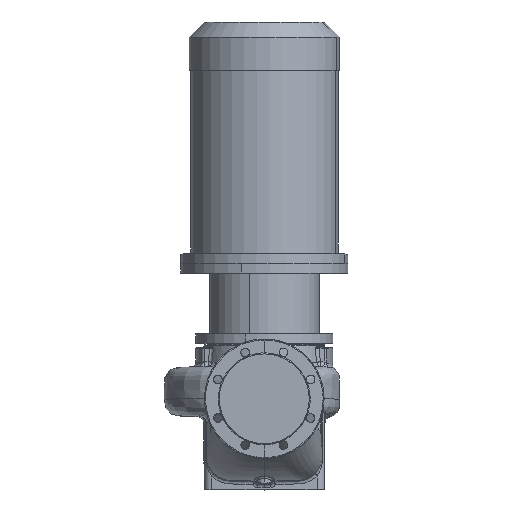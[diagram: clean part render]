
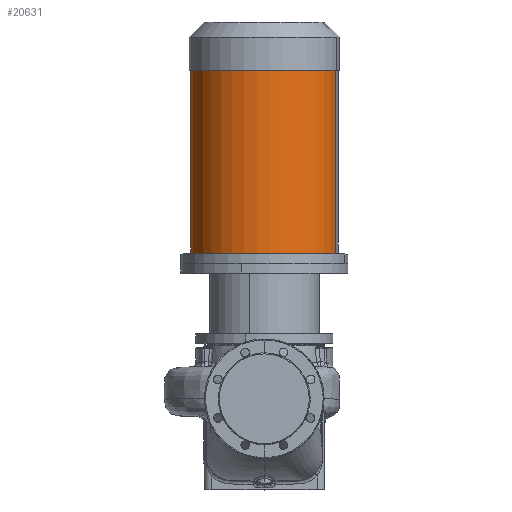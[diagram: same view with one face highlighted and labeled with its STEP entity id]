
A CAD part, top view. The second image highlights one B-rep face of the part: STEP entity #20631.
In plain terms, the highlighted cylindrical face has radius 154.5 mm (diameter 309 mm), a partial arc.
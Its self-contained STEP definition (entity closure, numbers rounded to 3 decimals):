
#4536 = DIRECTION ( 'NONE',  ( -0.961, 0., -0.276 ) ) ;
#4681 = DIRECTION ( 'NONE',  ( 0., -1., 0. ) ) ;
#5058 = AXIS2_PLACEMENT_3D ( 'NONE', #12334, #51979, #5729 ) ;
#5308 = VECTOR ( 'NONE', #17116, 1000. ) ;
#5418 = EDGE_CURVE ( 'NONE', #44767, #9413, #47356, .T. ) ;
#5729 = DIRECTION ( 'NONE',  ( -0.961, 0., -0.276 ) ) ;
#5773 = DIRECTION ( 'NONE',  ( -0.961, 0., -0.276 ) ) ;
#9058 = AXIS2_PLACEMENT_3D ( 'NONE', #51805, #56979, #5773 ) ;
#9413 = VERTEX_POINT ( 'NONE', #45608 ) ;
#9750 = VERTEX_POINT ( 'NONE', #13805 ) ;
#12213 = VERTEX_POINT ( 'NONE', #41342 ) ;
#12334 = CARTESIAN_POINT ( 'NONE',  ( 0., 687.3, 0. ) ) ;
#12987 = CARTESIAN_POINT ( 'NONE',  ( 0., 283.3, 0. ) ) ;
#13805 = CARTESIAN_POINT ( 'NONE',  ( -148.495, 303.3, -42.654 ) ) ;
#16912 = EDGE_LOOP ( 'NONE', ( #23786, #26775, #57912, #63433 ) ) ;
#17116 = DIRECTION ( 'NONE',  ( 0., -1., 0. ) ) ;
#19881 = LINE ( 'NONE', #32196, #5308 ) ;
#20631 = ADVANCED_FACE ( 'NONE', ( #35414 ), #39376, .T. ) ;
#22350 = EDGE_CURVE ( 'NONE', #12213, #9750, #19881, .T. ) ;
#23786 = ORIENTED_EDGE ( 'NONE', *, *, #5418, .F. ) ;
#26775 = ORIENTED_EDGE ( 'NONE', *, *, #59866, .T. ) ;
#27046 = CARTESIAN_POINT ( 'NONE',  ( 148.495, 687.3, 42.654 ) ) ;
#27899 = EDGE_CURVE ( 'NONE', #9413, #9750, #41271, .T. ) ;
#32196 = CARTESIAN_POINT ( 'NONE',  ( -148.495, 283.3, -42.654 ) ) ;
#35414 = FACE_OUTER_BOUND ( 'NONE', #16912, .T. ) ;
#38947 = AXIS2_PLACEMENT_3D ( 'NONE', #12987, #49233, #4536 ) ;
#39376 = CYLINDRICAL_SURFACE ( 'NONE', #38947, 154.5 ) ;
#40083 = VECTOR ( 'NONE', #4681, 1000. ) ;
#41271 = CIRCLE ( 'NONE', #9058, 154.5 ) ;
#41342 = CARTESIAN_POINT ( 'NONE',  ( -148.495, 687.3, -42.654 ) ) ;
#44767 = VERTEX_POINT ( 'NONE', #27046 ) ;
#45608 = CARTESIAN_POINT ( 'NONE',  ( 148.495, 303.3, 42.654 ) ) ;
#47356 = LINE ( 'NONE', #50032, #40083 ) ;
#49233 = DIRECTION ( 'NONE',  ( 0., -1., 0. ) ) ;
#50032 = CARTESIAN_POINT ( 'NONE',  ( 148.495, 283.3, 42.654 ) ) ;
#51805 = CARTESIAN_POINT ( 'NONE',  ( 0., 303.3, 0. ) ) ;
#51979 = DIRECTION ( 'NONE',  ( 0., -1., 0. ) ) ;
#56979 = DIRECTION ( 'NONE',  ( 0., -1., 0. ) ) ;
#57912 = ORIENTED_EDGE ( 'NONE', *, *, #22350, .T. ) ;
#59866 = EDGE_CURVE ( 'NONE', #44767, #12213, #61256, .T. ) ;
#61256 = CIRCLE ( 'NONE', #5058, 154.5 ) ;
#63433 = ORIENTED_EDGE ( 'NONE', *, *, #27899, .F. ) ;
